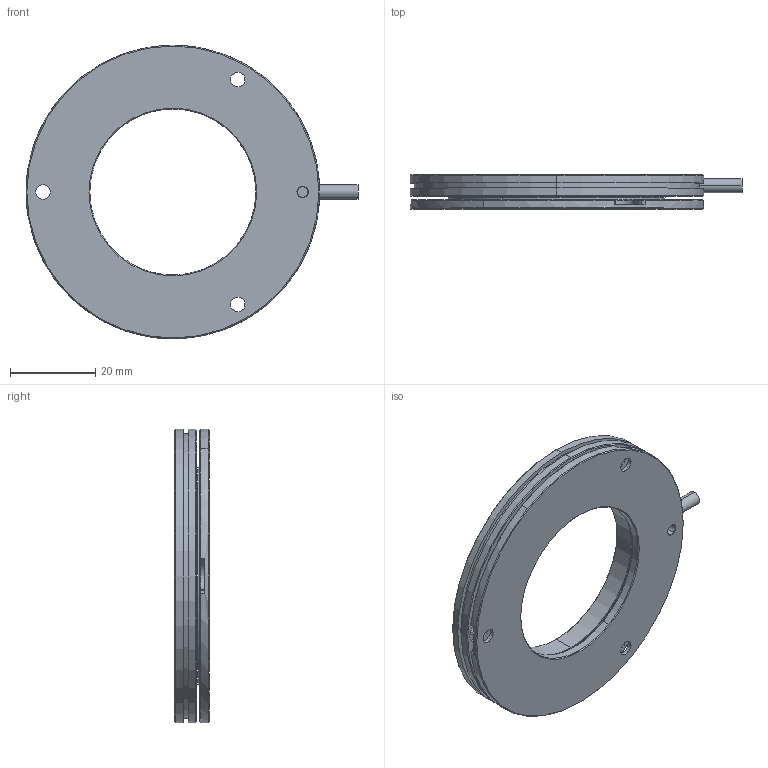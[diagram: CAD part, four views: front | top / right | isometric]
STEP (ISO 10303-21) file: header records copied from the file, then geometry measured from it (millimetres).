
FILE_DESCRIPTION (( 'STEP AP214' ), '1' );
FILE_NAME ('GMI-ROT-069-B11-K0x-ST_rev01.STEP', '2023-11-08T08:55:13', ( '' ), ( '' ), 'SwSTEP 2.0', 'SolidWorks 2021', '' );
FILE_SCHEMA (( 'AUTOMOTIVE_DESIGN' ));
Length unit declared in the file: millimetre
Products named in the file (1): GMI-ROT-069-B11-K0x-ST_rev01
Bounding box: 78 x 8 x 69 mm (x, y, z)
Volume: 17158.1 mm3; surface area: 19923.3 mm2
Topology: 6 solids, 6 shells, 212 faces, 508 edges, 321 vertices
Faces by surface type: cylinder 116, plane 50, cone 46
Entity records: 8726 total; most frequent: DIRECTION 1213, CARTESIAN_POINT 1090, ORIENTED_EDGE 1016, EDGE_CURVE 508, AXIS2_PLACEMENT_3D 500, VERTEX_POINT 321, CIRCLE 287, EDGE_LOOP 249
